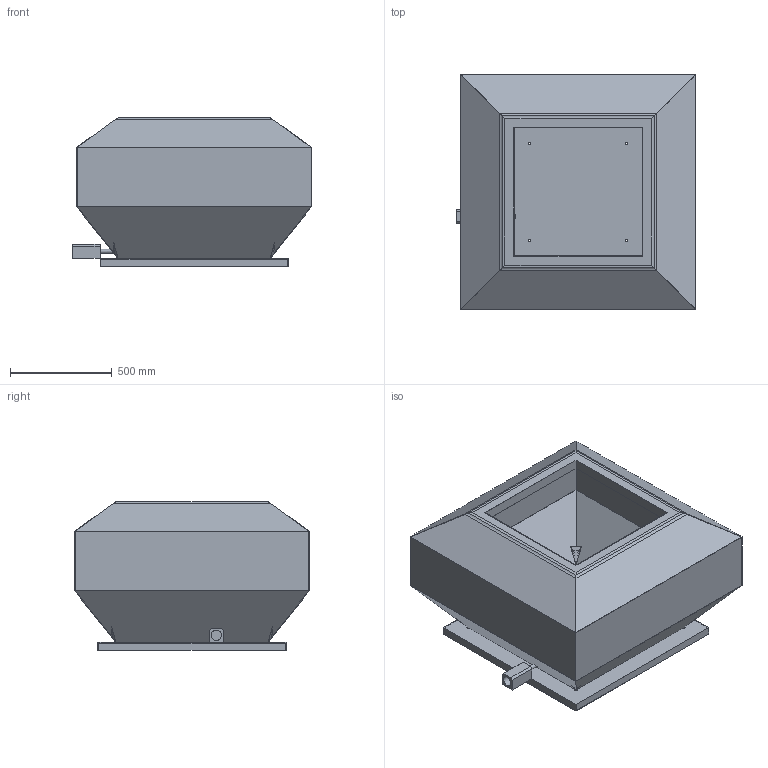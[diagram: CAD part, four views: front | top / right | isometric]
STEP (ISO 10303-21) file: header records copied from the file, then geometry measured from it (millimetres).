
FILE_DESCRIPTION(/* description */ (''),/* implementation_level */ '2;1');
FILE_NAME(/* name */ 'Z:\Output\VDD_630-6-07441-001.stp',/* time_stamp */ '2017-09-26T12:13:20+02:00',/* author */ ('engineering1'),/* organization */ (''),/* preprocessor_version */ 'ST-DEVELOPER v16.5',/* originating_system */ 'Autodesk Inventor 2017',/* authorisation */ '');
FILE_SCHEMA (('AUTOMOTIVE_DESIGN { 1 0 10303 214 3 1 1 }'));
Length unit declared in the file: millimetre
Products named in the file (1): VD-1
Bounding box: 1176 x 1155 x 733 mm (x, y, z)
Volume: 10928328.5 mm3; surface area: 9697142.3 mm2
Topology: 1 solids, 1 shells, 100 faces, 268 edges, 162 vertices
Faces by surface type: plane 81, cylinder 17, bspline 2
Full cylindrical faces by diameter (mm): 10 x8, 14 x4, 20 x4, 50 x1
Entity records: 3174 total; most frequent: CARTESIAN_POINT 558, DIRECTION 497, ORIENTED_EDGE 492, EDGE_CURVE 245, LINE 191, VECTOR 191, VERTEX_POINT 160, AXIS2_PLACEMENT_3D 153
